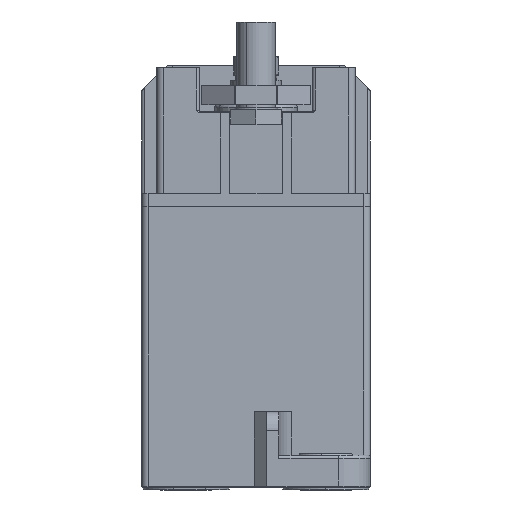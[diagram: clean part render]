
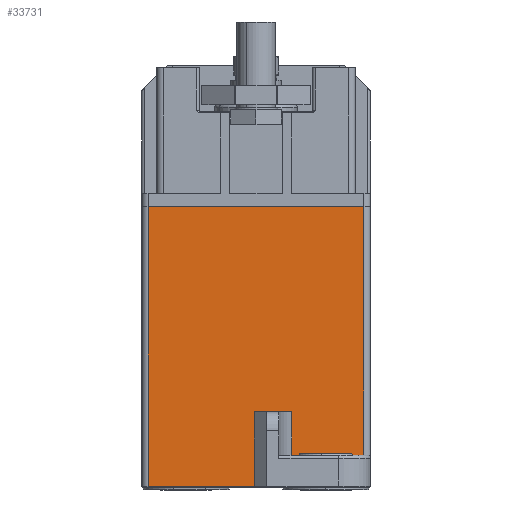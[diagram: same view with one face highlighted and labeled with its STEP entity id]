
A CAD part, left-side view. The second image highlights one B-rep face of the part: STEP entity #33731.
In plain terms, the highlighted planar face has unit normal (-1, 0, 0).
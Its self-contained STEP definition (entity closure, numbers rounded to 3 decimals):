
#1337 = PLANE ( 'NONE',  #7458 ) ;
#2304 = CARTESIAN_POINT ( 'NONE',  ( -24.5, 18., 0.2 ) ) ;
#2535 = VERTEX_POINT ( 'NONE', #5685 ) ;
#2664 = VERTEX_POINT ( 'NONE', #13497 ) ;
#3292 = VECTOR ( 'NONE', #45721, 1000. ) ;
#3874 = VERTEX_POINT ( 'NONE', #35482 ) ;
#4857 = FACE_OUTER_BOUND ( 'NONE', #11540, .T. ) ;
#5292 = VECTOR ( 'NONE', #38405, 1000. ) ;
#5497 = ORIENTED_EDGE ( 'NONE', *, *, #26433, .T. ) ;
#5542 = DIRECTION ( 'NONE',  ( 0., -1., 0. ) ) ;
#5685 = CARTESIAN_POINT ( 'NONE',  ( -24.5, -17., 44.2 ) ) ;
#5966 = CARTESIAN_POINT ( 'NONE',  ( -24.5, -18., 5.1 ) ) ;
#6991 = VECTOR ( 'NONE', #17811, 1000. ) ;
#7458 = AXIS2_PLACEMENT_3D ( 'NONE', #16889, #28875, #48283 ) ;
#9295 = CARTESIAN_POINT ( 'NONE',  ( -24.5, 18., 44.2 ) ) ;
#10779 = VECTOR ( 'NONE', #5542, 1000. ) ;
#11004 = LINE ( 'NONE', #11994, #14632 ) ;
#11540 = EDGE_LOOP ( 'NONE', ( #25735, #18475, #36142, #39961, #36306, #12130, #5497, #34688 ) ) ;
#11824 = EDGE_CURVE ( 'NONE', #47492, #13746, #29508, .T. ) ;
#11994 = CARTESIAN_POINT ( 'NONE',  ( -24.5, -5.6, 0. ) ) ;
#12130 = ORIENTED_EDGE ( 'NONE', *, *, #13034, .T. ) ;
#13034 = EDGE_CURVE ( 'NONE', #2664, #48290, #36616, .T. ) ;
#13497 = CARTESIAN_POINT ( 'NONE',  ( -24.5, -5.6, 5.1 ) ) ;
#13746 = VERTEX_POINT ( 'NONE', #37646 ) ;
#13834 = EDGE_CURVE ( 'NONE', #13746, #3874, #27503, .T. ) ;
#14434 = LINE ( 'NONE', #38569, #5292 ) ;
#14468 = EDGE_CURVE ( 'NONE', #34077, #3874, #47947, .T. ) ;
#14632 = VECTOR ( 'NONE', #42748, 1000. ) ;
#16889 = CARTESIAN_POINT ( 'NONE',  ( -24.5, 18., 44.2 ) ) ;
#17601 = CARTESIAN_POINT ( 'NONE',  ( -24.5, 17., 0.2 ) ) ;
#17811 = DIRECTION ( 'NONE',  ( 0., -1., 0. ) ) ;
#18475 = ORIENTED_EDGE ( 'NONE', *, *, #11824, .T. ) ;
#18864 = EDGE_CURVE ( 'NONE', #2664, #34077, #11004, .T. ) ;
#19021 = VERTEX_POINT ( 'NONE', #23879 ) ;
#19727 = CARTESIAN_POINT ( 'NONE',  ( -24.5, -5.6, 11.9 ) ) ;
#23304 = CARTESIAN_POINT ( 'NONE',  ( -24.5, 0.3, 0. ) ) ;
#23879 = CARTESIAN_POINT ( 'NONE',  ( -24.5, 17., 44.2 ) ) ;
#25735 = ORIENTED_EDGE ( 'NONE', *, *, #29291, .T. ) ;
#26433 = EDGE_CURVE ( 'NONE', #48290, #2535, #34729, .T. ) ;
#27503 = LINE ( 'NONE', #23304, #48005 ) ;
#28875 = DIRECTION ( 'NONE',  ( 1., 0., 0. ) ) ;
#29291 = EDGE_CURVE ( 'NONE', #19021, #47492, #14434, .T. ) ;
#29508 = LINE ( 'NONE', #2304, #37972 ) ;
#31542 = CARTESIAN_POINT ( 'NONE',  ( -24.5, -17., 5.1 ) ) ;
#33731 = ADVANCED_FACE ( 'NONE', ( #4857 ), #1337, .F. ) ;
#34077 = VERTEX_POINT ( 'NONE', #19727 ) ;
#34688 = ORIENTED_EDGE ( 'NONE', *, *, #41801, .F. ) ;
#34729 = LINE ( 'NONE', #45533, #3292 ) ;
#35092 = DIRECTION ( 'NONE',  ( 0., 0., 1. ) ) ;
#35482 = CARTESIAN_POINT ( 'NONE',  ( -24.5, 0.3, 11.9 ) ) ;
#36142 = ORIENTED_EDGE ( 'NONE', *, *, #13834, .T. ) ;
#36306 = ORIENTED_EDGE ( 'NONE', *, *, #18864, .F. ) ;
#36601 = DIRECTION ( 'NONE',  ( 0., -1., 0. ) ) ;
#36616 = LINE ( 'NONE', #5966, #6991 ) ;
#37646 = CARTESIAN_POINT ( 'NONE',  ( -24.5, 0.3, 0.2 ) ) ;
#37972 = VECTOR ( 'NONE', #36601, 1000. ) ;
#38405 = DIRECTION ( 'NONE',  ( 0., 0., -1. ) ) ;
#38569 = CARTESIAN_POINT ( 'NONE',  ( -24.5, 17., 44.2 ) ) ;
#39271 = DIRECTION ( 'NONE',  ( 0., 1., 0. ) ) ;
#39961 = ORIENTED_EDGE ( 'NONE', *, *, #14468, .F. ) ;
#41801 = EDGE_CURVE ( 'NONE', #19021, #2535, #42834, .T. ) ;
#42748 = DIRECTION ( 'NONE',  ( 0., 0., 1. ) ) ;
#42834 = LINE ( 'NONE', #9295, #10779 ) ;
#43346 = CARTESIAN_POINT ( 'NONE',  ( -24.5, -1.7, 11.9 ) ) ;
#44318 = VECTOR ( 'NONE', #39271, 1000. ) ;
#45533 = CARTESIAN_POINT ( 'NONE',  ( -24.5, -17., 44.2 ) ) ;
#45721 = DIRECTION ( 'NONE',  ( 0., 0., 1. ) ) ;
#47492 = VERTEX_POINT ( 'NONE', #17601 ) ;
#47947 = LINE ( 'NONE', #43346, #44318 ) ;
#48005 = VECTOR ( 'NONE', #35092, 1000. ) ;
#48283 = DIRECTION ( 'NONE',  ( 0., 0., 1. ) ) ;
#48290 = VERTEX_POINT ( 'NONE', #31542 ) ;
